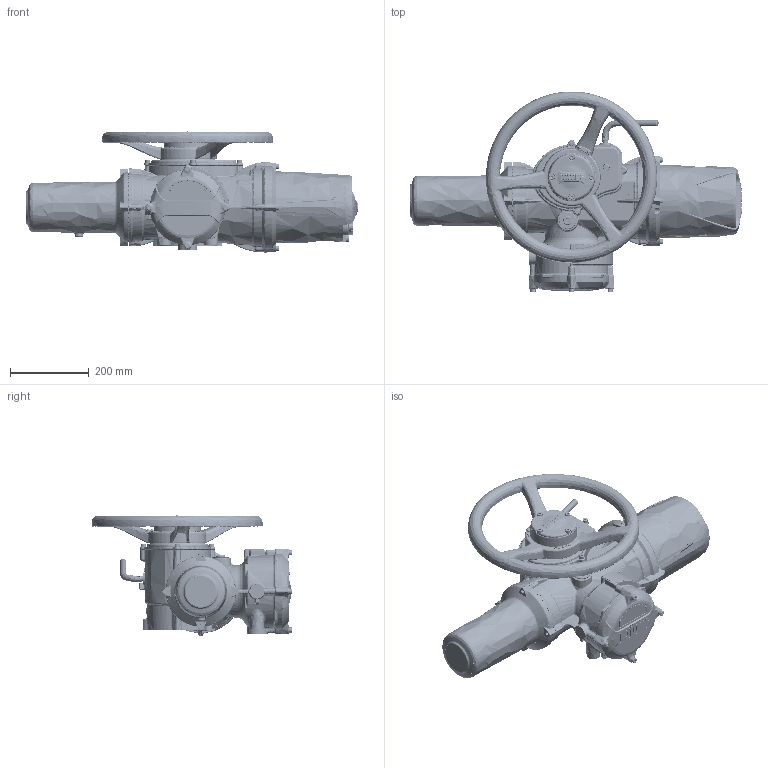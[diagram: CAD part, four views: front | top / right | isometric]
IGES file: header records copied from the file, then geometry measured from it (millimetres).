
Start section: C
Global section: file name: IQ3H-2SP-THW-NOBASE-1.igs; native system: By Siemens PLM Incorporated; preprocessor: XPlus GENERIC/IGES 23.0.57; author: Author; organization: Title; date: 20210329.112835; units: millimetre
Bounding box: 843.5 x 510.09 x 307.51 mm (x, y, z)
Surface area: 1242136.4 mm2 (no closed solid volume)
Topology: 0 solids, 0 shells, 6036 faces, 33916 edges, 33659 vertices
Faces by surface type: bspline 6036
